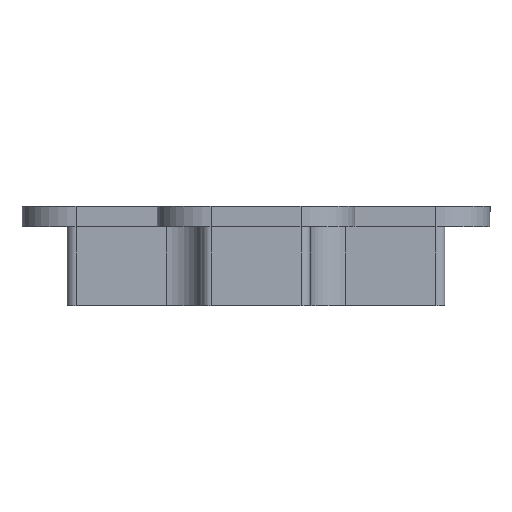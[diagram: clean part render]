
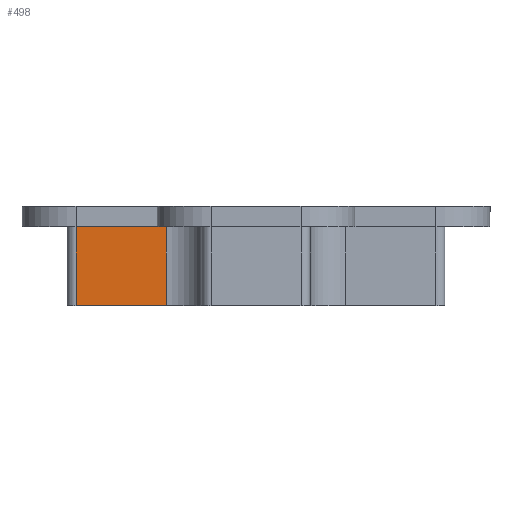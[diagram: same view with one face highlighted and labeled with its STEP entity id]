
A CAD part, left-side view. The second image highlights one B-rep face of the part: STEP entity #498.
In plain terms, the highlighted planar face has unit normal (-1, 0, 0).
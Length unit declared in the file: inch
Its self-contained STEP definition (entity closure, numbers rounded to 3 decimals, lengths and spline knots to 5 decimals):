
#11 = CARTESIAN_POINT ( 'NONE',  ( 0.93059, -1.125, -0.25 ) ) ;
#18 = DIRECTION ( 'NONE',  ( 0., 0., -1. ) ) ;
#25 = ORIENTED_EDGE ( 'NONE', *, *, #1505, .F. ) ;
#73 = DIRECTION ( 'NONE',  ( 0., 0., 1. ) ) ;
#97 = CARTESIAN_POINT ( 'NONE',  ( 0.93059, -0.925, -0.25 ) ) ;
#139 = LINE ( 'NONE', #1493, #1165 ) ;
#169 = VERTEX_POINT ( 'NONE', #1098 ) ;
#180 = CARTESIAN_POINT ( 'NONE',  ( 0.93059, -0.925, -0.25 ) ) ;
#241 = PLANE ( 'NONE',  #1199 ) ;
#247 = ORIENTED_EDGE ( 'NONE', *, *, #1500, .T. ) ;
#274 = EDGE_CURVE ( 'NONE', #942, #169, #387, .T. ) ;
#338 = VERTEX_POINT ( 'NONE', #97 ) ;
#387 = LINE ( 'NONE', #1590, #520 ) ;
#496 = DIRECTION ( 'NONE',  ( 1., 0., 0. ) ) ;
#498 = ADVANCED_FACE ( 'NONE', ( #908 ), #241, .F. ) ;
#520 = VECTOR ( 'NONE', #1210, 39.37008 ) ;
#533 = VECTOR ( 'NONE', #705, 39.37008 ) ;
#548 = CARTESIAN_POINT ( 'NONE',  ( 0.93059, -1.125, -0.075 ) ) ;
#602 = VECTOR ( 'NONE', #73, 39.37008 ) ;
#705 = DIRECTION ( 'NONE',  ( 0., 0., 1. ) ) ;
#778 = EDGE_CURVE ( 'NONE', #338, #169, #1540, .T. ) ;
#786 = VERTEX_POINT ( 'NONE', #950 ) ;
#871 = ORIENTED_EDGE ( 'NONE', *, *, #778, .F. ) ;
#908 = FACE_OUTER_BOUND ( 'NONE', #1497, .T. ) ;
#942 = VERTEX_POINT ( 'NONE', #548 ) ;
#950 = CARTESIAN_POINT ( 'NONE',  ( 0.93059, -1.125, -0.25 ) ) ;
#1089 = LINE ( 'NONE', #1231, #533 ) ;
#1098 = CARTESIAN_POINT ( 'NONE',  ( 0.93059, -0.925, -0.075 ) ) ;
#1165 = VECTOR ( 'NONE', #1242, 39.37008 ) ;
#1199 = AXIS2_PLACEMENT_3D ( 'NONE', #11, #496, #18 ) ;
#1210 = DIRECTION ( 'NONE',  ( 0., 1., 0. ) ) ;
#1231 = CARTESIAN_POINT ( 'NONE',  ( 0.93059, -1.125, -0.25 ) ) ;
#1242 = DIRECTION ( 'NONE',  ( 0., 1., 0. ) ) ;
#1323 = ORIENTED_EDGE ( 'NONE', *, *, #274, .T. ) ;
#1493 = CARTESIAN_POINT ( 'NONE',  ( 0.93059, -1.125, -0.25 ) ) ;
#1497 = EDGE_LOOP ( 'NONE', ( #1323, #871, #25, #247 ) ) ;
#1500 = EDGE_CURVE ( 'NONE', #786, #942, #1089, .T. ) ;
#1505 = EDGE_CURVE ( 'NONE', #786, #338, #139, .T. ) ;
#1540 = LINE ( 'NONE', #180, #602 ) ;
#1590 = CARTESIAN_POINT ( 'NONE',  ( 0.93059, -1.125, -0.075 ) ) ;
